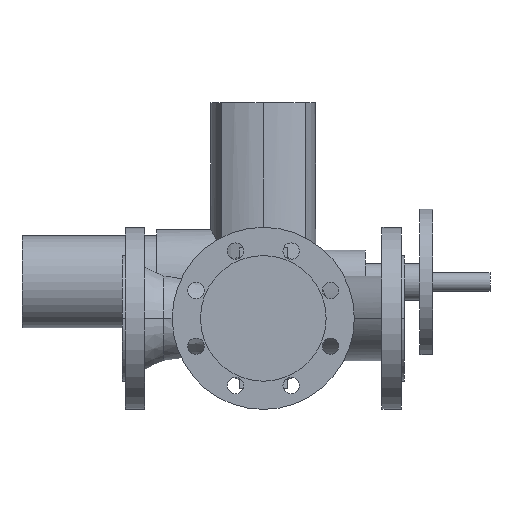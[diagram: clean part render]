
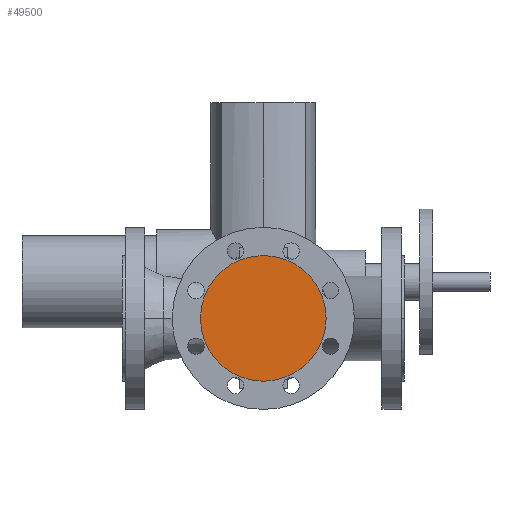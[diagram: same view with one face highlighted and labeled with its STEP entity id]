
A CAD part, front view. The second image highlights one B-rep face of the part: STEP entity #49500.
In plain terms, the highlighted planar face has unit normal (0, -1, 0).
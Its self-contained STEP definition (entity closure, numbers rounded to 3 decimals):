
#4570=CARTESIAN_POINT('',(224.,-130.,0.));
#4580=VERTEX_POINT('',#4570);
#4740=CARTESIAN_POINT('',(86.,-130.,0.));
#4750=VERTEX_POINT('',#4740);
#4780=CARTESIAN_POINT('',(155.,-130.,0.));
#4790=DIRECTION('',(0.,1.,0.));
#4800=DIRECTION('',(1.,0.,0.));
#4810=AXIS2_PLACEMENT_3D('',#4780,#4790,#4800);
#4820=CIRCLE('',#4810,69.);
#4830=EDGE_CURVE('',#4580,#4750,#4820,.T.);
#49400=CARTESIAN_POINT('',(189.5,-130.,0.));
#49410=DIRECTION('',(0.,-1.,0.));
#49420=DIRECTION('',(-1.,0.,0.));
#49430=AXIS2_PLACEMENT_3D('',#49400,#49410,#49420);
#49440=PLANE('',#49430);
#49450=EDGE_CURVE('',#4750,#4580,#4820,.T.);
#49460=ORIENTED_EDGE('',*,*,#49450,.F.);
#49470=ORIENTED_EDGE('',*,*,#4830,.F.);
#49480=EDGE_LOOP('',(#49470,#49460));
#49490=FACE_OUTER_BOUND('',#49480,.T.);
#49500=ADVANCED_FACE('',(#49490),#49440,.T.);
